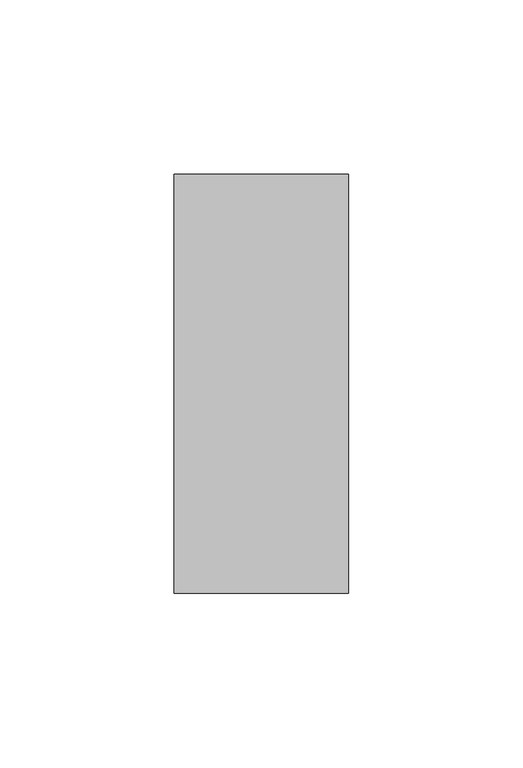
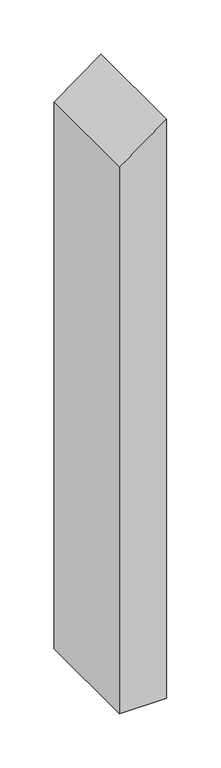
"""IFC4 building model written with IfcOpenShell, lengths in millimetres: member geometry, Прямоугольный импост : 50х120 мм."""

from ifc_helpers import new_model, si_unit, frame, origin, place, context, project, spatial, polyline, outline, extrude, source, transform, mapped, element, save


def member_8b32100e(model_context):
    return source(origin(), model_context, "Body", "SweptSolid", [
        extrude(outline(polyline([(0.0, 0.0), (-36.3271264, -50.0), (-649.9616899, -50.0), (-649.9616899, 0.0), (0.0, 0.0)])), frame((0.0, -60.0, 0.0), z_axis=(0.0, 1.0, 0.0), x_axis=(0.0, 0.0, 1.0)), (0.0, 0.0, 1.0), 120.0),
    ])


if __name__ == "__main__":
    model = new_model("IFC4")
    model_context = context("Model", 3, world=origin())
    ifc_project = project(units=[si_unit("LENGTHUNIT", "METRE", prefix="MILLI")], contexts=[model_context])
    site = spatial("IfcSite", under=ifc_project)
    building = spatial("IfcBuilding", under=site)
    placement = place(None, origin())
    member_shape = member_8b32100e(model_context)
    element("IfcMember", 1, ObjectType="Прямоугольный импост : 50х120 мм", at=placement, inside=building, context=model_context, shape_type="MappedRepresentation", body=[
        mapped(member_shape, transform((0.0, 0.0, 0.0), x_axis=(1.0, 0.0, 0.0), y_axis=(0.0, 1.0, 0.0), z_axis=(0.0, 0.0, 1.0))),
    ])
    save(model, "model.ifc")
